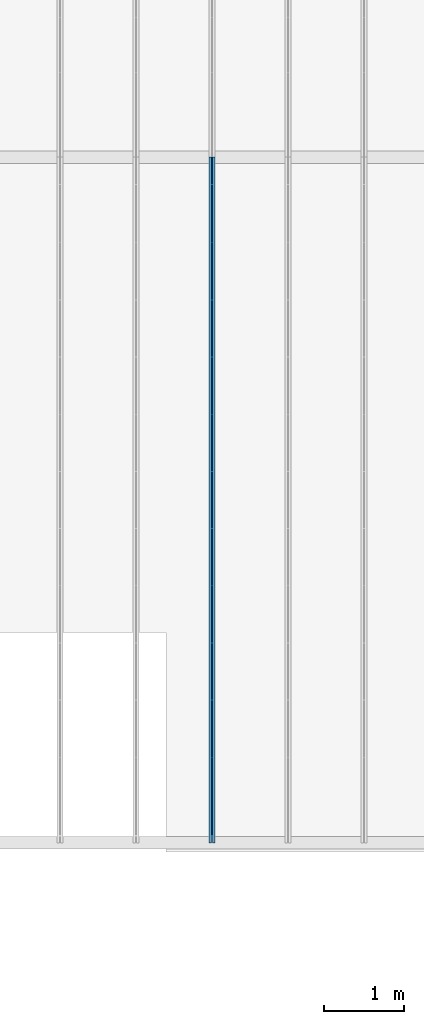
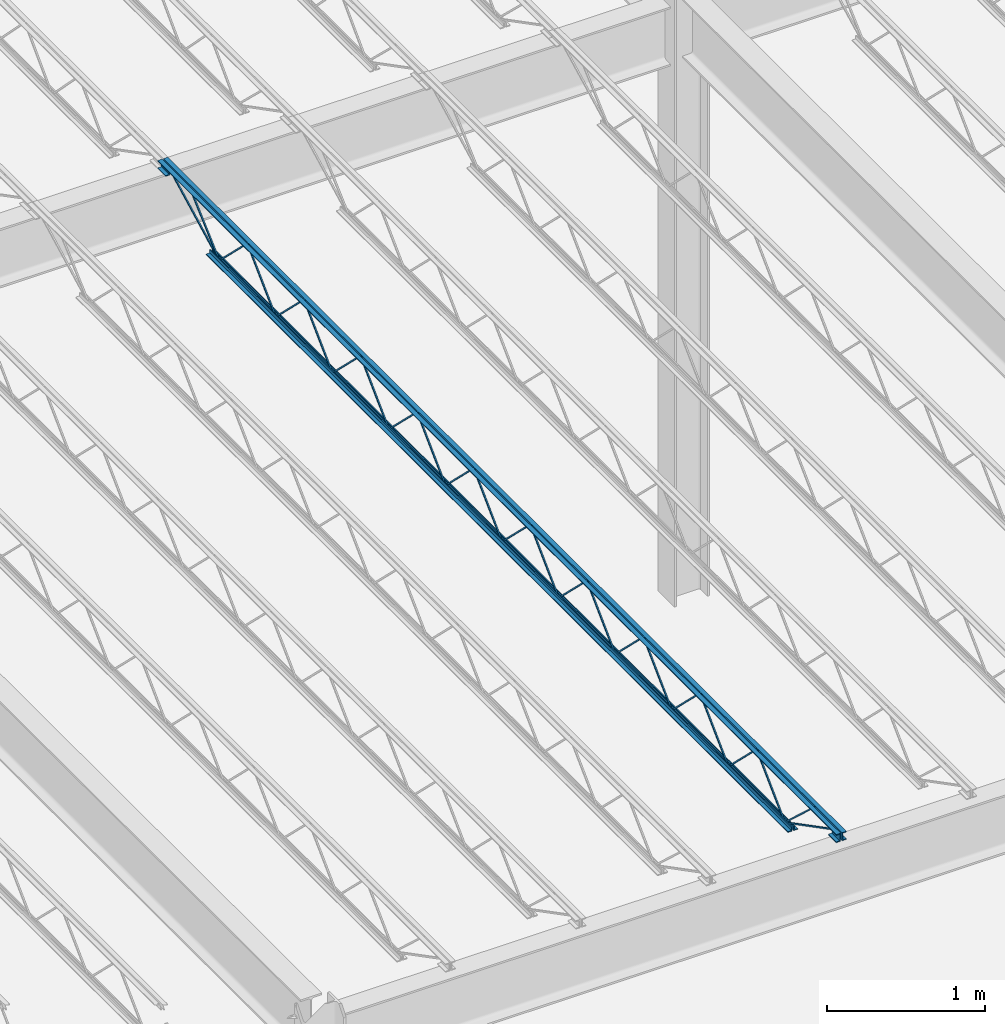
# One storey, part 60 of 119: 1 beam.
"""IFC2X3 building model written with IfcOpenShell, lengths in metres."""

from ifc_helpers import new_model, entity, si_unit, converted_unit, frame, origin, place, context, project, spatial, face_set, surface_model, element, save


model = new_model("IFC2X3")

# Units and contexts
model_context = context("Model", 3, precision=1e-09, world=origin())
plan_context = context("Plan", 3, precision=1e-09, world=origin())
ifc_project = project(units=[si_unit("LENGTHUNIT", "METRE"), si_unit("AREAUNIT", "SQUARE_METRE"), si_unit("VOLUMEUNIT", "CUBIC_METRE"), converted_unit("PLANEANGLEUNIT", "DEGREE", entity("IfcRatioMeasure", 0.01745329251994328), si_unit("PLANEANGLEUNIT", "RADIAN"), dimensions=[0, 0, 0, 0, 0, 0, 0]), si_unit("TIMEUNIT", "SECOND")], contexts=[model_context, plan_context])

# Site, building, storey
site_placement = place(None, origin())
site = spatial("IfcSite", under=ifc_project, at=site_placement, Name="Default", CompositionType="ELEMENT")
building_placement = place(site_placement, origin())
building = spatial("IfcBuilding", under=site, at=building_placement, CompositionType="ELEMENT")
storey_placement = place(building_placement, frame((0.0, 0.0, 4.570000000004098)))
storey = spatial("IfcBuildingStorey", under=building, at=storey_placement, Name="Second Floor", CompositionType="ELEMENT", Elevation=4.570000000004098)

# Beam
beam_placement = place(storey_placement, frame((-11.11673750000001, 10.03999999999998, 4.323999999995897), z_axis=(0.0, 0.0, 1.0), x_axis=(-1.0, 0.0, 0.0)))
element("IfcBeam", 1, at=beam_placement, inside=storey, Name="M_K-Series Bar Joist-Rod Web:14K1:14K1", ObjectType="M_K-Series Bar Joist-Rod Web:14K1", context=model_context, shape_type="SurfaceModel", body=[
    surface_model("IfcFaceBasedSurfaceModel", [(-0.03200000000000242, -2.141200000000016, 0.01110000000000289), (-0.04150000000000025, -2.141200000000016, 0.01110000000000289), (-0.04150000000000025, -2.141200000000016, 0.001600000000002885), (-0.03200000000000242, -2.141200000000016, 0.001600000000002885), (-0.04150000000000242, -2.139961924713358, 0.01110000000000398), (-0.03200000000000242, -2.139961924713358, 0.01110000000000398), (-0.04150000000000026, -2.136088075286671, 0.001600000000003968), (-0.04150000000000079, -1.785138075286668, 0.3449000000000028), (-0.04150000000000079, -1.782661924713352, 0.3449000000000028), (-0.04150000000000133, -1.431711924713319, 0.001600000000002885), (-0.04150000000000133, -1.426600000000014, 0.001600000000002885), (-0.04149999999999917, -1.426600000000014, 0.01110000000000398), (-0.04150000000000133, -1.427838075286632, 0.01110000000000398), (-0.0415000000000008, -1.77878807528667, 0.3544000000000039), (-0.04150000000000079, -1.789011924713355, 0.3544000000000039), (-0.03200000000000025, -2.136088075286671, 0.001600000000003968), (-0.03200000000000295, -1.785138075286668, 0.3449000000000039), (-0.03200000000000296, -1.782661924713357, 0.3449000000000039), (-0.03200000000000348, -1.431711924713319, 0.001600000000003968), (-0.0320000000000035, -1.426600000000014, 0.001600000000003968), (-0.0320000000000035, -1.426600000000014, 0.01110000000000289), (-0.03200000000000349, -1.427838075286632, 0.01110000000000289), (-0.03200000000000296, -1.778788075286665, 0.3544000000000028), (-0.03200000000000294, -1.789011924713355, 0.3544000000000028), (-0.03200000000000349, -2.855800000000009, 0.01110000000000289), (-0.04150000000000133, -2.855800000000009, 0.01110000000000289), (-0.04150000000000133, -2.855800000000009, 0.001600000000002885), (-0.03200000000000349, -2.855800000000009, 0.001600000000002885), (-0.0415000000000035, -2.854561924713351, 0.01110000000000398), (-0.0320000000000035, -2.854561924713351, 0.01110000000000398), (-0.04150000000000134, -2.850688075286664, 0.001600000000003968), (-0.04150000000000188, -2.499738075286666, 0.3449000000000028), (-0.04150000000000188, -2.497261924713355, 0.3449000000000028), (-0.04150000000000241, -2.146311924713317, 0.001600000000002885), (-0.04150000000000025, -2.141200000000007, 0.001600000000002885), (-0.04150000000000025, -2.141200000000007, 0.01110000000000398), (-0.04150000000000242, -2.14243807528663, 0.01110000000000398), (-0.04150000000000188, -2.493388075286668, 0.3544000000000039), (-0.04150000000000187, -2.503611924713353, 0.3544000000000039), (-0.03200000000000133, -2.850688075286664, 0.001600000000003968), (-0.03200000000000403, -2.499738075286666, 0.3449000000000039), (-0.03200000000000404, -2.497261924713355, 0.3449000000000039), (-0.03200000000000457, -2.146311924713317, 0.001600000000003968), (-0.03200000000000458, -2.141200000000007, 0.001600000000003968), (-0.03200000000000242, -2.141200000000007, 0.01110000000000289), (-0.03200000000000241, -2.14243807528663, 0.01110000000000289), (-0.03200000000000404, -2.493388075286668, 0.3544000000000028), (-0.03200000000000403, -2.503611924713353, 0.3544000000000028), (-0.03200000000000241, -3.570400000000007, 0.01110000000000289), (-0.04150000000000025, -3.570400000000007, 0.01110000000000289), (-0.04150000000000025, -3.570400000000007, 0.001600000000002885), (-0.03200000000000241, -3.570400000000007, 0.001600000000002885), (-0.04150000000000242, -3.569161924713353, 0.01110000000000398), (-0.03200000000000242, -3.569161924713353, 0.01110000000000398), (-0.04150000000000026, -3.565288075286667, 0.001600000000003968), (-0.04150000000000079, -3.214338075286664, 0.3449000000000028), (-0.04150000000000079, -3.211861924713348, 0.3449000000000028), (-0.04150000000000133, -2.860911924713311, 0.001600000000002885), (-0.04149999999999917, -2.855800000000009, 0.01110000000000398), (-0.04150000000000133, -2.857038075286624, 0.01110000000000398), (-0.0415000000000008, -3.207988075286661, 0.3544000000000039), (-0.04150000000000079, -3.218211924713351, 0.3544000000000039), (-0.03200000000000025, -3.565288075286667, 0.001600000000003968), (-0.03200000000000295, -3.214338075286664, 0.3449000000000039), (-0.03200000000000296, -3.211861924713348, 0.3449000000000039), (-0.03200000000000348, -2.860911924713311, 0.001600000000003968), (-0.03200000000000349, -2.855800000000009, 0.001600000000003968), (-0.03200000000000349, -2.857038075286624, 0.01110000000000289), (-0.03200000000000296, -3.207988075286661, 0.3544000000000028), (-0.03200000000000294, -3.218211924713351, 0.3544000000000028), (-0.03200000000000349, -4.285000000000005, 0.01110000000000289), (-0.04150000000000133, -4.285000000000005, 0.01110000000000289), (-0.04150000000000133, -4.285000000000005, 0.001600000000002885), (-0.03200000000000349, -4.285000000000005, 0.001600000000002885), (-0.0415000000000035, -4.283761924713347, 0.01110000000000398), (-0.0320000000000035, -4.283761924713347, 0.01110000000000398), (-0.04150000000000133, -4.27988807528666, 0.001600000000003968), (-0.04150000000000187, -3.928938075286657, 0.3449000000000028), (-0.04150000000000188, -3.92646192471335, 0.3449000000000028), (-0.04150000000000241, -3.575511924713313, 0.001600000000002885), (-0.04150000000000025, -3.570400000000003, 0.001600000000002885), (-0.04150000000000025, -3.570400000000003, 0.01110000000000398), (-0.04150000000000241, -3.571638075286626, 0.01110000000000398), (-0.04150000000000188, -3.922588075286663, 0.3544000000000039), (-0.04150000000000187, -3.932811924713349, 0.3544000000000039), (-0.03200000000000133, -4.27988807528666, 0.001600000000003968), (-0.03200000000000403, -3.928938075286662, 0.3449000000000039), (-0.03200000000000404, -3.92646192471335, 0.3449000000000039), (-0.03200000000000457, -3.575511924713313, 0.001600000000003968), (-0.03200000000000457, -3.570400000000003, 0.001600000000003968), (-0.03200000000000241, -3.570400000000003, 0.01110000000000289), (-0.03200000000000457, -3.571638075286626, 0.01110000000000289), (-0.03200000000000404, -3.922588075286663, 0.3544000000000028), (-0.03200000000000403, -3.932811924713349, 0.3544000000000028), (-0.03200000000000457, -4.999599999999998, 0.01110000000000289), (-0.04150000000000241, -4.999599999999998, 0.01110000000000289), (-0.04150000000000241, -4.999599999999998, 0.001600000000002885), (-0.03200000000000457, -4.999599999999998, 0.001600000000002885), (-0.04150000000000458, -4.998361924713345, 0.01110000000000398), (-0.03200000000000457, -4.998361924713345, 0.01110000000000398), (-0.04150000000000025, -4.994488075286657, 0.001600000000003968), (-0.04150000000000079, -4.643538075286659, 0.3449000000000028), (-0.04150000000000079, -4.641061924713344, 0.3449000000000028), (-0.04150000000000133, -4.290111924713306, 0.001600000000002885), (-0.04150000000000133, -4.285, 0.01110000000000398), (-0.04150000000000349, -4.28623807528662, 0.01110000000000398), (-0.04150000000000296, -4.637188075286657, 0.3544000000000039), (-0.04150000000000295, -4.647411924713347, 0.3544000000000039), (-0.03200000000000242, -4.994488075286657, 0.001600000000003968), (-0.03200000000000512, -4.643538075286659, 0.3449000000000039), (-0.03200000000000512, -4.641061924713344, 0.3449000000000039), (-0.03200000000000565, -4.290111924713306, 0.001600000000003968), (-0.03200000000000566, -4.285, 0.001600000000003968), (-0.03200000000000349, -4.28623807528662, 0.01110000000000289), (-0.03200000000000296, -4.637188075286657, 0.3544000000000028), (-0.03200000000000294, -4.647411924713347, 0.3544000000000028), (-0.03200000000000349, -5.714200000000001, 0.01110000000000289), (-0.04150000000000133, -5.714200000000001, 0.01110000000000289), (-0.04150000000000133, -5.714200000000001, 0.001600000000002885), (-0.03200000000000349, -5.714200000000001, 0.001600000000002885), (-0.0415000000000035, -5.712961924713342, 0.01110000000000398), (-0.03200000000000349, -5.712961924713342, 0.01110000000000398), (-0.04150000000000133, -5.709088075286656, 0.001600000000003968), (-0.04150000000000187, -5.358138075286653, 0.3449000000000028), (-0.04150000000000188, -5.355661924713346, 0.3449000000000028), (-0.04150000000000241, -5.004711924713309, 0.001600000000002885), (-0.04150000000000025, -4.999599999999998, 0.01110000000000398), (-0.04150000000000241, -5.000838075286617, 0.01110000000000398), (-0.04150000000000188, -5.351788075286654, 0.3544000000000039), (-0.04150000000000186, -5.36201192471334, 0.3544000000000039), (-0.03200000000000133, -5.709088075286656, 0.001600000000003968), (-0.03200000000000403, -5.358138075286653, 0.3449000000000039), (-0.03200000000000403, -5.355661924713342, 0.3449000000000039), (-0.03200000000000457, -5.004711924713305, 0.001600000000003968), (-0.03200000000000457, -4.999599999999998, 0.001600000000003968), (-0.03200000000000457, -5.000838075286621, 0.01110000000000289), (-0.03200000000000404, -5.351788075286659, 0.3544000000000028), (-0.03200000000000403, -5.36201192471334, 0.3544000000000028), (-0.03200000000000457, -6.428799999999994, 0.01110000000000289), (-0.04150000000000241, -6.428799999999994, 0.01110000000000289), (-0.04150000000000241, -6.428799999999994, 0.001600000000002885), (-0.03200000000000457, -6.428799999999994, 0.001600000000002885), (-0.04150000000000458, -6.42756192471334, 0.01110000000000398), (-0.03200000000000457, -6.42756192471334, 0.01110000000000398), (-0.04150000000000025, -6.423688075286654, 0.001600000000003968), (-0.04150000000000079, -6.072738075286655, 0.3449000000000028), (-0.04150000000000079, -6.070261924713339, 0.3449000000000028), (-0.04150000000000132, -5.719311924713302, 0.001600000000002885), (-0.04150000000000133, -5.714199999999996, 0.001600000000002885), (-0.04150000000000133, -5.714199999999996, 0.01110000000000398), (-0.04150000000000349, -5.715438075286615, 0.01110000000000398), (-0.04150000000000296, -6.066388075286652, 0.3544000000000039), (-0.04150000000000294, -6.076611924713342, 0.3544000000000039), (-0.03200000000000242, -6.423688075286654, 0.001600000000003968), (-0.03200000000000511, -6.072738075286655, 0.3449000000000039), (-0.03200000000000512, -6.070261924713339, 0.3449000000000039), (-0.03200000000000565, -5.719311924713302, 0.001600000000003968), (-0.03200000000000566, -5.714199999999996, 0.001600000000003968), (-0.03200000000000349, -5.714199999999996, 0.01110000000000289), (-0.03200000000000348, -5.715438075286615, 0.01110000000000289), (-0.03200000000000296, -6.066388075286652, 0.3544000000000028), (-0.03200000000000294, -6.076611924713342, 0.3544000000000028), (-0.03200000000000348, -7.143399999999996, 0.01110000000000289), (-0.04150000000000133, -7.143399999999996, 0.01110000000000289), (-0.04150000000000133, -7.143399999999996, 0.001600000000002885), (-0.03200000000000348, -7.143399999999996, 0.001600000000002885), (-0.04150000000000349, -7.142161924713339, 0.01110000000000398), (-0.03200000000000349, -7.142161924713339, 0.01110000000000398), (-0.04150000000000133, -7.138288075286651, 0.001600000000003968), (-0.04150000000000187, -6.787338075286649, 0.3449000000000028), (-0.04150000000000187, -6.784861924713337, 0.3449000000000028), (-0.0415000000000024, -6.4339119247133, 0.001600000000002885), (-0.04150000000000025, -6.428799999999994, 0.01110000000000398), (-0.04150000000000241, -6.430038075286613, 0.01110000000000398), (-0.04150000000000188, -6.780988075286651, 0.3544000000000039), (-0.04150000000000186, -6.791211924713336, 0.3544000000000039), (-0.03200000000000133, -7.138288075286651, 0.001600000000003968), (-0.03200000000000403, -6.787338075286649, 0.3449000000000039), (-0.03200000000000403, -6.784861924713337, 0.3449000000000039), (-0.03200000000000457, -6.4339119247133, 0.001600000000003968), (-0.03200000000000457, -6.428799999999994, 0.001600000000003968), (-0.03200000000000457, -6.430038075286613, 0.01110000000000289), (-0.03200000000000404, -6.780988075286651, 0.3544000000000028), (-0.03200000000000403, -6.791211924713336, 0.3544000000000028), (-0.03200000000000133, -1.426600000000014, 0.01109999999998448), (-0.04149999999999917, -1.426600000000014, 0.01109999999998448), (-0.04149999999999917, -1.426600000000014, 0.001599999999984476), (-0.03200000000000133, -1.426600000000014, 0.001599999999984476), (-0.04150000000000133, -1.42536192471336, 0.01109999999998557), (-0.03200000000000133, -1.42536192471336, 0.01109999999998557), (-0.04150000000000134, -1.421488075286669, 0.001599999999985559), (-0.04150000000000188, -1.07053807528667, 0.3448999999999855), (-0.04150000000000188, -1.068061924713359, 0.3448999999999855), (-0.04150000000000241, -0.7171119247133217, 0.001599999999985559), (-0.04149999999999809, -0.7120000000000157, 0.001599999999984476), (-0.04150000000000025, -0.7120000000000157, 0.01109999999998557), (-0.04150000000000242, -0.7132380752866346, 0.01109999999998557), (-0.04150000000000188, -1.064188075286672, 0.3543999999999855), (-0.04150000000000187, -1.074411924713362, 0.3543999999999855), (-0.03200000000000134, -1.421488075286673, 0.001599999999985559), (-0.03200000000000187, -1.070538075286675, 0.3448999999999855), (-0.03200000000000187, -1.068061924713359, 0.3448999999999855), (-0.0320000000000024, -0.7171119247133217, 0.001599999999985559), (-0.03200000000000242, -0.7120000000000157, 0.001599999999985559), (-0.03200000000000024, -0.7120000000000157, 0.01109999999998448), (-0.03200000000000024, -0.7132380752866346, 0.01109999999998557), (-0.03200000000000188, -1.064188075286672, 0.3543999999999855), (-0.03200000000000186, -1.074411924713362, 0.3543999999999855), (-0.03200000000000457, -7.85799999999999, 0.01110000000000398), (-0.04150000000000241, -7.85799999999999, 0.01110000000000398), (-0.04150000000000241, -7.85799999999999, 0.001600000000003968), (-0.03200000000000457, -7.85799999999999, 0.001600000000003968), (-0.04150000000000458, -7.856761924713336, 0.01110000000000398), (-0.03200000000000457, -7.856761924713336, 0.01110000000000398), (-0.04150000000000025, -7.852888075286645, 0.001600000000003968), (-0.04150000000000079, -7.501938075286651, 0.3449000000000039), (-0.04150000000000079, -7.499461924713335, 0.3449000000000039), (-0.04150000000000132, -7.148511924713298, 0.001600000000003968), (-0.04150000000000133, -7.143399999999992, 0.001600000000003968), (-0.04150000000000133, -7.143399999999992, 0.01110000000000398), (-0.04150000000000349, -7.14463807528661, 0.01110000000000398), (-0.04150000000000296, -7.495588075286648, 0.3544000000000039), (-0.04150000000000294, -7.505811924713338, 0.3544000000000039), (-0.03200000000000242, -7.852888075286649, 0.001600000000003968), (-0.03200000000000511, -7.501938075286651, 0.3449000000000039), (-0.03200000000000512, -7.499461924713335, 0.3449000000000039), (-0.03200000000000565, -7.148511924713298, 0.001600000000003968), (-0.03200000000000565, -7.143399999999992, 0.001600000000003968), (-0.03200000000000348, -7.143399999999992, 0.01110000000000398), (-0.03200000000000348, -7.14463807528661, 0.01110000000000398), (-0.03200000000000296, -7.495588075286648, 0.3544000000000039), (-0.03200000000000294, -7.505811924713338, 0.3544000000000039), (-0.0415000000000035, 0.0, 0.3559999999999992), (-0.07350000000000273, 0.0, 0.3559999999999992), (-0.07350000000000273, 0.0, 0.3494999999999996), (-0.04800000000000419, 0.0, 0.3494999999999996), (-0.04800000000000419, 0.0, 0.3239999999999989), (-0.0415000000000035, 0.0, 0.3239999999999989), (-0.03200000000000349, 0.0, 0.3559999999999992), (-0.03200000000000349, 0.0, 0.3239999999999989), (-0.0255000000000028, 0.0, 0.3239999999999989), (-0.0255000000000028, 0.0, 0.3494999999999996), (0.0, 0.0, 0.3494999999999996), (0.0, 0.0, 0.3559999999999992), (-0.0415000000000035, -8.569999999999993, 0.3559999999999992), (-0.07350000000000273, -8.569999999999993, 0.3559999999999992), (-0.07350000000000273, -8.569999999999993, 0.3494999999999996), (-0.04800000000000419, -8.569999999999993, 0.3494999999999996), (-0.04800000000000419, -8.569999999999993, 0.3239999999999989), (-0.0415000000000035, -8.569999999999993, 0.3239999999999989), (-0.03200000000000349, -8.569999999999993, 0.3559999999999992), (-0.03200000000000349, -8.569999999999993, 0.3239999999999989), (-0.0255000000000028, -8.569999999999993, 0.3239999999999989), (-0.0255000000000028, -8.569999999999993, 0.3494999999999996), (0.0, -8.569999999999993, 0.3494999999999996), (0.0, -8.569999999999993, 0.3559999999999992), (-0.03200000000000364, -8.470000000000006, 0.2924999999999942), (0.0, -8.470000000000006, 0.2924999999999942), (0.0, -8.470000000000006, 0.2989999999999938), (-0.02550000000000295, -8.470000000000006, 0.2989999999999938), (-0.02550000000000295, -8.470000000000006, 0.3239999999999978), (-0.03200000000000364, -8.470000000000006, 0.3239999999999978), (-0.07350000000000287, -8.470000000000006, 0.2924999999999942), (-0.04150000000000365, -8.470000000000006, 0.2924999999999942), (-0.04150000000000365, -8.470000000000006, 0.3239999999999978), (-0.04800000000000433, -8.470000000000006, 0.3239999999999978), (-0.04800000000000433, -8.470000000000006, 0.2989999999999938), (-0.07350000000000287, -8.470000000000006, 0.2989999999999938), (-0.03200000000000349, -8.569999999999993, 0.2924999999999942), (0.0, -8.569999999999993, 0.2924999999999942), (0.0, -8.569999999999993, 0.2989999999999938), (-0.0255000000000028, -8.569999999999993, 0.2989999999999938), (-0.0255000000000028, -8.569999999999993, 0.3239999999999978), (-0.03200000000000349, -8.569999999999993, 0.3239999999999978), (-0.07350000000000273, -8.569999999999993, 0.2924999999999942), (-0.0415000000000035, -8.569999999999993, 0.2924999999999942), (-0.0415000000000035, -8.569999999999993, 0.3239999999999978), (-0.04800000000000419, -8.569999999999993, 0.3239999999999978), (-0.04800000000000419, -8.569999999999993, 0.2989999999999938), (-0.07350000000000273, -8.569999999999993, 0.2989999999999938), (-0.0415000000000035, 0.0, 0.2924999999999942), (-0.0415000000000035, 0.0, 0.3239999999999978), (-0.04800000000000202, 0.0, 0.3239999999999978), (-0.04800000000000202, 0.0, 0.2989999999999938), (-0.07350000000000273, 0.0, 0.2989999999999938), (-0.07350000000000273, 0.0, 0.2924999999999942), (-0.03200000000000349, 0.0, 0.2924999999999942), (0.0, 0.0, 0.2924999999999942), (0.0, 0.0, 0.2989999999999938), (-0.0255000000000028, 0.0, 0.2989999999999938), (-0.0255000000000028, 0.0, 0.3239999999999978), (-0.03200000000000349, 0.0, 0.3239999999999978), (-0.04150000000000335, -0.09999999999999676, 0.2924999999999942), (-0.04150000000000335, -0.09999999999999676, 0.3239999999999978), (-0.04800000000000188, -0.09999999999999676, 0.3239999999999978), (-0.04800000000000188, -0.09999999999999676, 0.2989999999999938), (-0.07350000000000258, -0.09999999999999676, 0.2989999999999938), (-0.07350000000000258, -0.09999999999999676, 0.2924999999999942), (-0.03200000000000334, -0.09999999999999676, 0.2924999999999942), (0.0, -0.09999999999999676, 0.2924999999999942), (0.0, -0.09999999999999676, 0.2989999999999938), (-0.02550000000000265, -0.09999999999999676, 0.2989999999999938), (-0.02550000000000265, -0.09999999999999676, 0.3239999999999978), (-0.03200000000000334, -0.09999999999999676, 0.3239999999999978), (-0.04150000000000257, -0.6119999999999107, 0.0), (-0.04150000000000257, -0.6119999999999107, 0.03199999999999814), (-0.04800000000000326, -0.6119999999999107, 0.03199999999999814), (-0.04800000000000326, -0.6119999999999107, 0.006499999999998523), (-0.0735000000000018, -0.6119999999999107, 0.006499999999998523), (-0.0735000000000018, -0.6119999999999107, 0.0), (-0.03200000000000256, -0.6119999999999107, 0.0), (0.0, -0.6119999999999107, 0.0), (0.0, -0.6119999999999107, 0.006499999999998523), (-0.02550000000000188, -0.6119999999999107, 0.006499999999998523), (-0.02550000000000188, -0.6119999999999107, 0.03199999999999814), (-0.03200000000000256, -0.6119999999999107, 0.03199999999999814), (-0.04150000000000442, -7.957999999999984, 0.0), (-0.04150000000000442, -7.957999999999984, 0.03199999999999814), (-0.04800000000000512, -7.957999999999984, 0.03199999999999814), (-0.04800000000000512, -7.957999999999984, 0.006499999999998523), (-0.07350000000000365, -7.957999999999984, 0.006499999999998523), (-0.07350000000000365, -7.957999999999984, 0.0), (-0.03200000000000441, -7.957999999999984, 0.0), (0.0, -7.957999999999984, 0.0), (0.0, -7.957999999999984, 0.006499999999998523), (-0.02550000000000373, -7.957999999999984, 0.006499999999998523), (-0.02550000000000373, -7.957999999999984, 0.03199999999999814), (-0.03200000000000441, -7.957999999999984, 0.03199999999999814), (-0.03200000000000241, -7.855811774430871, 0.01056594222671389), (-0.04150000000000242, -7.855811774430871, 0.01056594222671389), (-0.04150000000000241, -7.860188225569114, 0.002134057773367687), (-0.03200000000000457, -7.860188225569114, 0.00213405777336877), (-0.03199999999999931, -8.468840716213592, 0.3287499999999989), (-0.03199999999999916, -8.569999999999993, 0.3287499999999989), (-0.03200000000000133, -8.569999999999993, 0.3192499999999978), (-0.03200000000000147, -8.471159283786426, 0.3192499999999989), (-0.04150000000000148, -8.471159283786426, 0.3192499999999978), (-0.04150000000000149, -8.468840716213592, 0.3287499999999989), (-0.04150000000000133, -8.569999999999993, 0.3287499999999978), (-0.04150000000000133, -8.569999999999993, 0.3192499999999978), (-0.032000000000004, -8.235257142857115, 0.3417000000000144), (-0.04150000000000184, -8.235257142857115, 0.3417000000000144), (-0.04150000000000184, -8.235257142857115, 0.3322000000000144), (-0.032000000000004, -8.235257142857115, 0.3322000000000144), (-0.04150000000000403, -8.22072410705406, 0.3417000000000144), (-0.03200000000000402, -8.220724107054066, 0.3417000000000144), (-0.04150000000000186, -8.224390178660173, 0.3322000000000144), (-0.04150000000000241, -7.861190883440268, 0.002831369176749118), (-0.04150000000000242, -7.854809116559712, 0.009868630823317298), (-0.03200000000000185, -8.224390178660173, 0.3322000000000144), (-0.03200000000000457, -7.861190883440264, 0.002831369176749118), (-0.03200000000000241, -7.854809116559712, 0.009868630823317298), (-0.03200000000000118, -0.0978117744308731, 0.3197840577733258), (-0.03200000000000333, -0.1021882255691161, 0.328215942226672), (-0.04150000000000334, -0.1021882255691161, 0.328215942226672), (-0.04150000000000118, -0.0978117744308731, 0.3197840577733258), (-0.03200000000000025, -0.7098117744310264, 0.002134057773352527), (-0.03200000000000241, -0.7141882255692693, 0.01056594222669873), (-0.04150000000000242, -0.7141882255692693, 0.01056594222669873), (-0.04150000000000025, -0.7098117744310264, 0.002134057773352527), (-0.03200000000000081, -0.3369634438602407, 0.3461600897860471), (-0.03200000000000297, -0.3434079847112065, 0.3531399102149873), (-0.04150000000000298, -0.3434079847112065, 0.3531399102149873), (-0.04150000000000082, -0.3369634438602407, 0.3461600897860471), (-0.03200000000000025, -0.7087777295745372, 0.00286008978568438), (-0.03200000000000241, -0.7152222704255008, 0.009839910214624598), (-0.04150000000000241, -0.7152222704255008, 0.009839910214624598), (-0.04150000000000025, -0.7087777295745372, 0.00286008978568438)], [face_set([[[0, 1, 2, 3]], [[1, 4, 5, 0]], [[2, 6, 7, 8, 9, 10, 11, 12, 13, 14, 4, 1]], [[3, 2, 6, 15]], [[0, 3, 15, 16, 17, 18, 19, 20, 21, 22, 23, 5]], [[4, 5, 23, 14]], [[15, 16, 7, 6]], [[14, 13, 22, 23]], [[16, 7, 8, 17]], [[13, 12, 21, 22]], [[17, 8, 9, 18]], [[20, 11, 10, 19]], [[12, 11, 20, 21]], [[18, 9, 10, 19]]]), face_set([[[24, 25, 26, 27]], [[25, 28, 29, 24]], [[26, 30, 31, 32, 33, 34, 35, 36, 37, 38, 28, 25]], [[27, 26, 30, 39]], [[24, 27, 39, 40, 41, 42, 43, 44, 45, 46, 47, 29]], [[28, 29, 47, 38]], [[39, 40, 31, 30]], [[38, 37, 46, 47]], [[40, 31, 32, 41]], [[37, 36, 45, 46]], [[41, 32, 33, 42]], [[44, 35, 34, 43]], [[36, 35, 44, 45]], [[42, 33, 34, 43]]]), face_set([[[48, 49, 50, 51]], [[49, 52, 53, 48]], [[50, 54, 55, 56, 57, 26, 58, 59, 60, 61, 52, 49]], [[51, 50, 54, 62]], [[48, 51, 62, 63, 64, 65, 66, 24, 67, 68, 69, 53]], [[52, 53, 69, 61]], [[62, 63, 55, 54]], [[61, 60, 68, 69]], [[63, 55, 56, 64]], [[60, 59, 67, 68]], [[64, 56, 57, 65]], [[24, 58, 26, 66]], [[59, 58, 24, 67]], [[65, 57, 26, 66]]]), face_set([[[70, 71, 72, 73]], [[71, 74, 75, 70]], [[72, 76, 77, 78, 79, 80, 81, 82, 83, 84, 74, 71]], [[73, 72, 76, 85]], [[70, 73, 85, 86, 87, 88, 89, 90, 91, 92, 93, 75]], [[74, 75, 93, 84]], [[85, 86, 77, 76]], [[84, 83, 92, 93]], [[86, 77, 78, 87]], [[83, 82, 91, 92]], [[87, 78, 79, 88]], [[90, 81, 80, 89]], [[82, 81, 90, 91]], [[88, 79, 80, 89]]]), face_set([[[94, 95, 96, 97]], [[95, 98, 99, 94]], [[96, 100, 101, 102, 103, 72, 104, 105, 106, 107, 98, 95]], [[97, 96, 100, 108]], [[94, 97, 108, 109, 110, 111, 112, 70, 113, 114, 115, 99]], [[98, 99, 115, 107]], [[108, 109, 101, 100]], [[107, 106, 114, 115]], [[109, 101, 102, 110]], [[106, 105, 113, 114]], [[110, 102, 103, 111]], [[70, 104, 72, 112]], [[105, 104, 70, 113]], [[111, 103, 72, 112]]]), face_set([[[116, 117, 118, 119]], [[117, 120, 121, 116]], [[118, 122, 123, 124, 125, 96, 126, 127, 128, 129, 120, 117]], [[119, 118, 122, 130]], [[116, 119, 130, 131, 132, 133, 134, 94, 135, 136, 137, 121]], [[120, 121, 137, 129]], [[130, 131, 123, 122]], [[129, 128, 136, 137]], [[131, 123, 124, 132]], [[128, 127, 135, 136]], [[132, 124, 125, 133]], [[94, 126, 96, 134]], [[127, 126, 94, 135]], [[133, 125, 96, 134]]]), face_set([[[138, 139, 140, 141]], [[139, 142, 143, 138]], [[140, 144, 145, 146, 147, 148, 149, 150, 151, 152, 142, 139]], [[141, 140, 144, 153]], [[138, 141, 153, 154, 155, 156, 157, 158, 159, 160, 161, 143]], [[142, 143, 161, 152]], [[153, 154, 145, 144]], [[152, 151, 160, 161]], [[154, 145, 146, 155]], [[151, 150, 159, 160]], [[155, 146, 147, 156]], [[158, 149, 148, 157]], [[150, 149, 158, 159]], [[156, 147, 148, 157]]]), face_set([[[162, 163, 164, 165]], [[163, 166, 167, 162]], [[164, 168, 169, 170, 171, 140, 172, 173, 174, 175, 166, 163]], [[165, 164, 168, 176]], [[162, 165, 176, 177, 178, 179, 180, 138, 181, 182, 183, 167]], [[166, 167, 183, 175]], [[176, 177, 169, 168]], [[175, 174, 182, 183]], [[177, 169, 170, 178]], [[174, 173, 181, 182]], [[178, 170, 171, 179]], [[138, 172, 140, 180]], [[173, 172, 138, 181]], [[179, 171, 140, 180]]]), face_set([[[184, 185, 186, 187]], [[185, 188, 189, 184]], [[186, 190, 191, 192, 193, 194, 195, 196, 197, 198, 188, 185]], [[187, 186, 190, 199]], [[184, 187, 199, 200, 201, 202, 203, 204, 205, 206, 207, 189]], [[188, 189, 207, 198]], [[199, 200, 191, 190]], [[198, 197, 206, 207]], [[200, 191, 192, 201]], [[197, 196, 205, 206]], [[201, 192, 193, 202]], [[204, 195, 194, 203]], [[196, 195, 204, 205]], [[202, 193, 194, 203]]]), face_set([[[208, 209, 210, 211]], [[209, 212, 213, 208]], [[210, 214, 215, 216, 217, 218, 219, 220, 221, 222, 212, 209]], [[211, 210, 214, 223]], [[208, 211, 223, 224, 225, 226, 227, 228, 229, 230, 231, 213]], [[212, 213, 231, 222]], [[223, 224, 215, 214]], [[222, 221, 230, 231]], [[224, 215, 216, 225]], [[221, 220, 229, 230]], [[225, 216, 217, 226]], [[228, 219, 218, 227]], [[220, 219, 228, 229]], [[226, 217, 218, 227]]]), face_set([[[232, 233, 234, 235, 236, 237]], [[238, 239, 240, 241, 242, 243]], [[244, 245, 246, 247, 248, 249]], [[250, 251, 252, 253, 254, 255]], [[237, 232, 244, 249]], [[236, 237, 249, 248]], [[235, 247, 248, 236]], [[234, 235, 247, 246]], [[233, 245, 246, 234]], [[232, 244, 245, 233]], [[243, 255, 250, 238]], [[242, 243, 255, 254]], [[241, 242, 254, 253]], [[240, 241, 253, 252]], [[239, 240, 252, 251]], [[238, 250, 251, 239]]]), face_set([[[256, 257, 258, 259, 260, 261]], [[262, 263, 264, 265, 266, 267]], [[268, 269, 270, 271, 272, 273]], [[274, 275, 276, 277, 278, 279]], [[261, 273, 268, 256]], [[260, 272, 273, 261]], [[259, 260, 272, 271]], [[258, 270, 271, 259]], [[257, 258, 270, 269]], [[256, 257, 269, 268]], [[267, 279, 274, 262]], [[266, 278, 279, 267]], [[265, 277, 278, 266]], [[264, 276, 277, 265]], [[263, 264, 276, 275]], [[262, 263, 275, 274]]]), face_set([[[280, 281, 282, 283, 284, 285]], [[286, 287, 288, 289, 290, 291]], [[292, 293, 294, 295, 296, 297]], [[298, 299, 300, 301, 302, 303]], [[285, 280, 292, 297]], [[284, 296, 297, 285]], [[283, 295, 296, 284]], [[282, 294, 295, 283]], [[281, 293, 294, 282]], [[280, 281, 293, 292]], [[291, 303, 298, 286]], [[290, 302, 303, 291]], [[289, 290, 302, 301]], [[288, 300, 301, 289]], [[287, 288, 300, 299]], [[286, 287, 299, 298]]]), face_set([[[304, 305, 306, 307, 308, 309]], [[310, 311, 312, 313, 314, 315]], [[316, 317, 318, 319, 320, 321]], [[322, 323, 324, 325, 326, 327]], [[309, 304, 316, 321]], [[308, 320, 321, 309]], [[307, 319, 320, 308]], [[306, 318, 319, 307]], [[305, 317, 318, 306]], [[304, 305, 317, 316]], [[315, 327, 322, 310]], [[314, 326, 327, 315]], [[313, 314, 326, 325]], [[312, 324, 325, 313]], [[311, 312, 324, 323]], [[310, 311, 323, 322]]]), face_set([[[328, 329, 330, 331]], [[331, 328, 332, 333, 334, 335]], [[330, 331, 335, 336]], [[329, 337, 338, 339, 336, 330]], [[328, 332, 337, 329]], [[333, 338, 339, 334]], [[336, 335, 334, 339]], [[332, 333, 338, 337]]]), face_set([[[340, 341, 342, 343]], [[341, 344, 345, 340]], [[342, 346, 347, 348, 344, 341]], [[343, 342, 346, 349]], [[340, 343, 349, 350, 351, 345]], [[351, 348, 347, 350]], [[344, 348, 351, 345]], [[349, 346, 347, 350]]]), face_set([[[352, 353, 354, 355]], [[356, 357, 358, 359]], [[355, 352, 356, 359]], [[354, 358, 359, 355]], [[353, 357, 358, 354]], [[352, 353, 357, 356]]]), face_set([[[360, 361, 362, 363]], [[364, 365, 366, 367]], [[363, 367, 364, 360]], [[362, 366, 367, 363]], [[361, 362, 366, 365]], [[360, 361, 365, 364]]])]),
])

save(model, "model.ifc")
